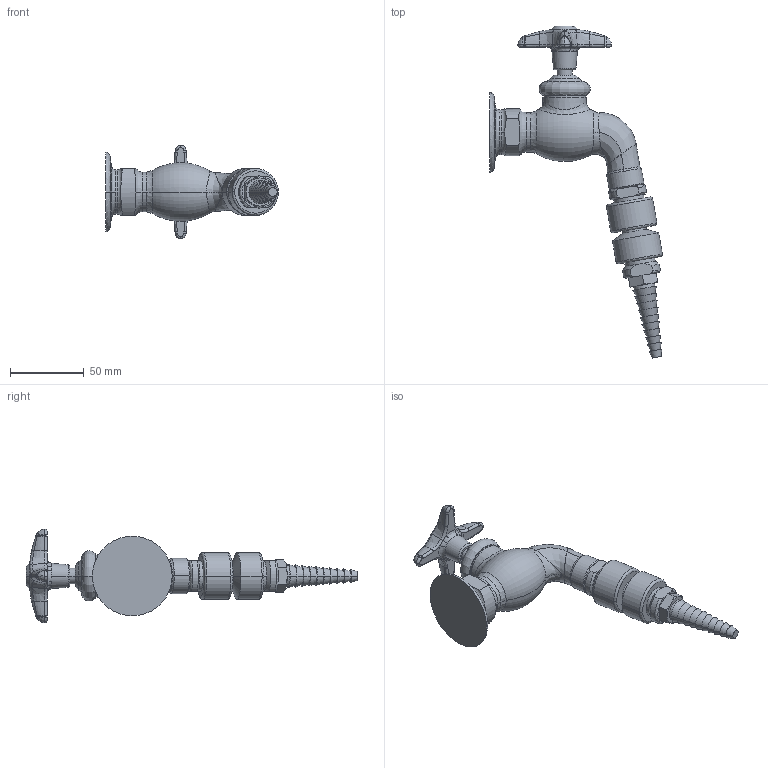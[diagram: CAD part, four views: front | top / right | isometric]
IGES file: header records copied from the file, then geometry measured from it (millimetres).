
Start section:  PTC IGES file: LWV3-B43.igs
Global section: file name: LWV3-B43.igs; native system: Creo Parametric by PTC Inc.; preprocessor: 2014500; author: usch_engrender; organization: Unknown; date: 20150910.121703; units: inch
Bounding box: 116.95 x 224.74 x 63.42 mm (x, y, z)
Volume: 165235.5 mm3; surface area: 32426.1 mm2
Topology: 1 solids, 3 shells, 316 faces, 704 edges, 413 vertices
Faces by surface type: bspline 202, revolution 114
